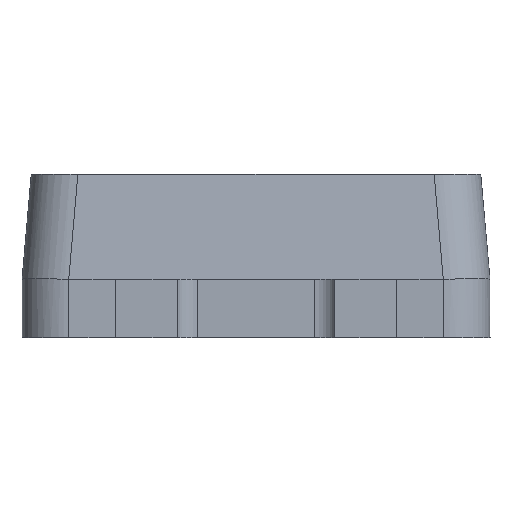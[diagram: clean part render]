
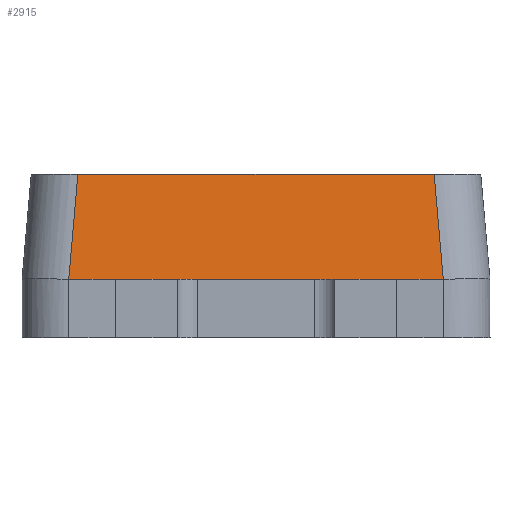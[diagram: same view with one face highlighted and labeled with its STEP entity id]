
A CAD part, left-side view. The second image highlights one B-rep face of the part: STEP entity #2915.
In plain terms, the highlighted planar face has unit normal (-0.996, 0, 0.087).
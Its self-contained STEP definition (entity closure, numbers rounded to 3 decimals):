
#12 = LINE ( 'NONE', #3574, #3768 ) ;
#221 = VERTEX_POINT ( 'NONE', #2848 ) ;
#427 = VERTEX_POINT ( 'NONE', #917 ) ;
#556 = LINE ( 'NONE', #1080, #1900 ) ;
#917 = CARTESIAN_POINT ( 'NONE',  ( -1.25, -0.8, 0. ) ) ;
#1080 = CARTESIAN_POINT ( 'NONE',  ( -1.25, 0., 0. ) ) ;
#1346 = EDGE_CURVE ( 'NONE', #427, #221, #1998, .T. ) ;
#1382 = ORIENTED_EDGE ( 'NONE', *, *, #2390, .T. ) ;
#1521 = ORIENTED_EDGE ( 'NONE', *, *, #2461, .T. ) ;
#1759 = VERTEX_POINT ( 'NONE', #4098 ) ;
#1787 = CARTESIAN_POINT ( 'NONE',  ( -1.25, 0., 0. ) ) ;
#1900 = VECTOR ( 'NONE', #4509, 1000. ) ;
#1972 = CARTESIAN_POINT ( 'NONE',  ( -1.211, 0.761, 0.45 ) ) ;
#1998 = LINE ( 'NONE', #3791, #4612 ) ;
#2038 = LINE ( 'NONE', #1972, #4376 ) ;
#2156 = DIRECTION ( 'NONE',  ( 0.087, 0., 0.996 ) ) ;
#2163 = DIRECTION ( 'NONE',  ( 0., -1., 0. ) ) ;
#2216 = DIRECTION ( 'NONE',  ( -0.996, 0., 0.087 ) ) ;
#2390 = EDGE_CURVE ( 'NONE', #2844, #3769, #2038, .T. ) ;
#2461 = EDGE_CURVE ( 'NONE', #5126, #1759, #4379, .T. ) ;
#2658 = CARTESIAN_POINT ( 'NONE',  ( -1.211, 0.761, 0.45 ) ) ;
#2663 = EDGE_LOOP ( 'NONE', ( #5409, #1521, #3761, #3897, #3372, #1382 ) ) ;
#2844 = VERTEX_POINT ( 'NONE', #2658 ) ;
#2848 = CARTESIAN_POINT ( 'NONE',  ( -1.211, -0.761, 0.45 ) ) ;
#2915 = ADVANCED_FACE ( 'NONE', ( #3498 ), #3999, .T. ) ;
#2926 = DIRECTION ( 'NONE',  ( 0.087, 0.087, 0.992 ) ) ;
#3107 = CARTESIAN_POINT ( 'NONE',  ( -1.25, 0.584, 0. ) ) ;
#3372 = ORIENTED_EDGE ( 'NONE', *, *, #3672, .T. ) ;
#3397 = DIRECTION ( 'NONE',  ( 0., -1., 0. ) ) ;
#3415 = DIRECTION ( 'NONE',  ( -0.087, 0.087, -0.992 ) ) ;
#3498 = FACE_OUTER_BOUND ( 'NONE', #2663, .T. ) ;
#3574 = CARTESIAN_POINT ( 'NONE',  ( -1.211, 0., 0.45 ) ) ;
#3672 = EDGE_CURVE ( 'NONE', #221, #2844, #12, .T. ) ;
#3741 = EDGE_CURVE ( 'NONE', #3769, #5126, #556, .T. ) ;
#3761 = ORIENTED_EDGE ( 'NONE', *, *, #4690, .T. ) ;
#3768 = VECTOR ( 'NONE', #5335, 1000. ) ;
#3769 = VERTEX_POINT ( 'NONE', #4585 ) ;
#3791 = CARTESIAN_POINT ( 'NONE',  ( -1.25, -0.801, 0. ) ) ;
#3807 = LINE ( 'NONE', #5568, #4991 ) ;
#3897 = ORIENTED_EDGE ( 'NONE', *, *, #1346, .T. ) ;
#3999 = PLANE ( 'NONE',  #5355 ) ;
#4098 = CARTESIAN_POINT ( 'NONE',  ( -1.25, -0.584, 0. ) ) ;
#4376 = VECTOR ( 'NONE', #3415, 1000. ) ;
#4379 = LINE ( 'NONE', #1787, #5192 ) ;
#4398 = CARTESIAN_POINT ( 'NONE',  ( -1.25, 0., 0. ) ) ;
#4509 = DIRECTION ( 'NONE',  ( 0., -1., 0. ) ) ;
#4585 = CARTESIAN_POINT ( 'NONE',  ( -1.25, 0.8, 0. ) ) ;
#4612 = VECTOR ( 'NONE', #2926, 1000. ) ;
#4690 = EDGE_CURVE ( 'NONE', #1759, #427, #3807, .T. ) ;
#4991 = VECTOR ( 'NONE', #3397, 1000. ) ;
#5126 = VERTEX_POINT ( 'NONE', #3107 ) ;
#5192 = VECTOR ( 'NONE', #2163, 1000. ) ;
#5335 = DIRECTION ( 'NONE',  ( 0., 1., 0. ) ) ;
#5355 = AXIS2_PLACEMENT_3D ( 'NONE', #4398, #2216, #2156 ) ;
#5409 = ORIENTED_EDGE ( 'NONE', *, *, #3741, .T. ) ;
#5568 = CARTESIAN_POINT ( 'NONE',  ( -1.25, 0., 0. ) ) ;
